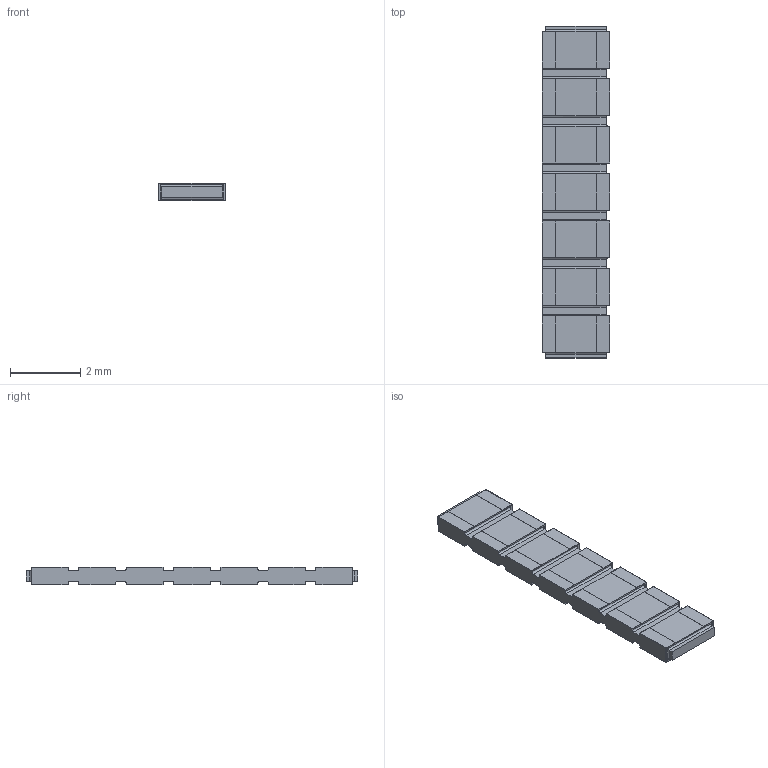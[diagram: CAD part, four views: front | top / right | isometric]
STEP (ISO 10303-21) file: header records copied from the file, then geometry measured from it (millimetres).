
FILE_DESCRIPTION(/* description */ (''),/* implementation_level */ '2;1');
FILE_NAME(/* name */ 'S:\DOCUMENT\AUTOCAD\3D_Modèles\10_3D-pour-VISHAY-COM\PRA\PRA135\PRA135-C2_à_C8\10_IGES\PRA135C7_B-or-N-or-G.stp',/* time_stamp */ '2017-12-18T12:04:17+01:00',/* author */ ('dparmentier'),/* organization */ ('unknown'),/* preprocessor_version */ 'ST-DEVELOPER v17',/* originating_system */ 'Autodesk Inventor 2018',/* authorisation */ '');
FILE_SCHEMA (('AUTOMOTIVE_DESIGN { 1 0 10303 214 3 1 1 }'));
Length unit declared in the file: millimetre
Products named in the file (1): PRA135C7_B-or-N-or-G
Bounding box: 1.91 x 9.45 x 0.5 mm (x, y, z)
Volume: 8.1 mm3; surface area: 87.5 mm2
Topology: 9 solids, 9 shells, 284 faces, 760 edges, 496 vertices
Faces by surface type: plane 216, cylinder 68
Entity records: 8777 total; most frequent: CARTESIAN_POINT 1541, ORIENTED_EDGE 1520, DIRECTION 1434, EDGE_CURVE 760, LINE 656, VECTOR 656, VERTEX_POINT 496, AXIS2_PLACEMENT_3D 389
